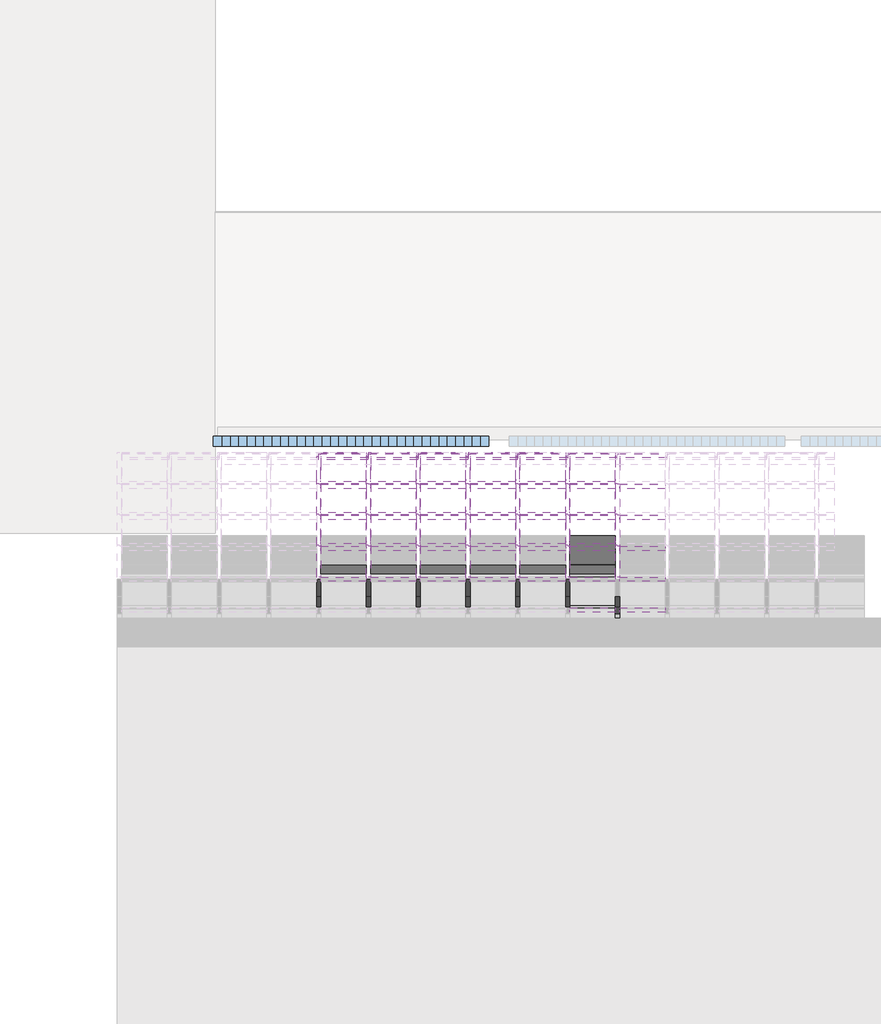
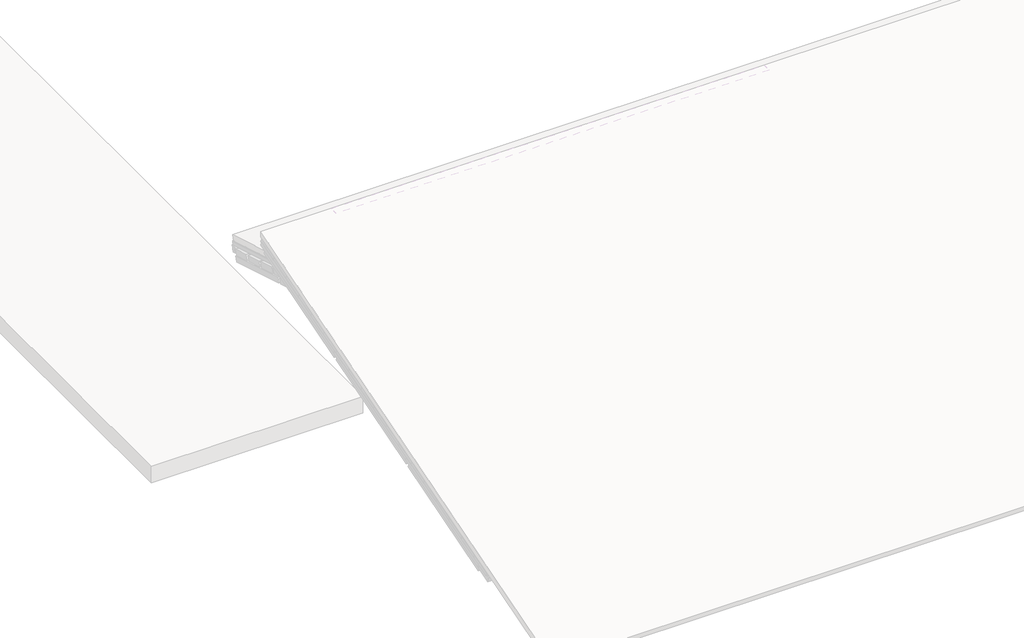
# One storey, part 14 of 57: 95 members, 25 plates, 1 window.
"""IFC4 building model written with IfcOpenShell, lengths in millimetres."""

from ifc_helpers import new_model, si_unit, origin, place, context, project, spatial, transform, mapped, element, save
from components import rectangular_mullion_4c4137b9, rectangular_mullion_59984080, rectangular_mullion_2d2423ea, rectangular_mullion_3ac3718c, rectangular_mullion_caibro_df98490b, rectangular_mullion_caibro_e4384bba, rectangular_mullion_caibro_0993a3cf, rectangular_mullion_caibro_9bd7bc61, rectangular_mullion_caibro_650698a1, empty_system_panel_vazio_178faf58, empty_system_panel_vazio_2c78850d, window_60306791, window_6c828501, window_02d14e1e

model = new_model("IFC4")

# Units and contexts
model_context = context("Model", 3, world=origin())
ifc_project = project(units=[si_unit("LENGTHUNIT", "METRE", prefix="MILLI")], contexts=[model_context])

# Site, building, storey
site = spatial("IfcSite", under=ifc_project)
building = spatial("IfcBuilding", under=site)
storey = spatial("IfcBuildingStorey", under=building, Name="Nível 2", Elevation=4100.0)

# Members
placement = place(None, origin())
rectangular_mullion_shape = rectangular_mullion_4c4137b9(model_context)
element("IfcMember", 1, ObjectType="Rectangular Mullion : Ripa", at=placement, inside=storey, context=model_context, shape_type="MappedRepresentation", body=[
    mapped(rectangular_mullion_shape, transform((4139.8996779, 15566.1284427, 5819.8877114), x_axis=(0.0, 0.9578262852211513, 0.2873478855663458), y_axis=(0.0, 0.2873478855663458, -0.9578262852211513), z_axis=(-1.0, 0.0, 0.0))),
])
element("IfcMember", 2, ObjectType="Rectangular Mullion : Ripa", at=placement, inside=storey, context=model_context, shape_type="MappedRepresentation", body=[
    mapped(rectangular_mullion_shape, transform((4736.9544343, 15566.1284427, 5819.8877114), x_axis=(0.0, 0.9578262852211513, 0.2873478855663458), y_axis=(0.0, 0.2873478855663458, -0.9578262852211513), z_axis=(-1.0, 0.0, 0.0))),
])
element("IfcMember", 3, ObjectType="Rectangular Mullion : Ripa", at=placement, inside=storey, context=model_context, shape_type="MappedRepresentation", body=[
    mapped(rectangular_mullion_shape, transform((5334.0091907, 15566.1284427, 5819.8877114), x_axis=(0.0, 0.9578262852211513, 0.2873478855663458), y_axis=(0.0, 0.2873478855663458, -0.9578262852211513), z_axis=(-1.0, 0.0, 0.0))),
])
element("IfcMember", 4, ObjectType="Rectangular Mullion : Ripa", at=placement, inside=storey, context=model_context, shape_type="MappedRepresentation", body=[
    mapped(rectangular_mullion_shape, transform((5931.0639471, 15566.1284427, 5819.8877114), x_axis=(0.0, 0.9578262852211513, 0.2873478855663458), y_axis=(0.0, 0.2873478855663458, -0.9578262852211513), z_axis=(-1.0, 0.0, 0.0))),
])
element("IfcMember", 5, ObjectType="Rectangular Mullion : Ripa", at=placement, inside=storey, context=model_context, shape_type="MappedRepresentation", body=[
    mapped(rectangular_mullion_shape, transform((6528.1187036, 15566.1284427, 5819.8877114), x_axis=(0.0, 0.9578262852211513, 0.2873478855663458), y_axis=(0.0, 0.2873478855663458, -0.9578262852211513), z_axis=(-1.0, 0.0, 0.0))),
])
element("IfcMember", 6, ObjectType="Rectangular Mullion : Ripa", at=placement, inside=storey, context=model_context, shape_type="MappedRepresentation", body=[
    mapped(rectangular_mullion_shape, transform((7125.17346, 15566.1284427, 5819.8877114), x_axis=(0.0, 0.9578262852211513, 0.2873478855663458), y_axis=(0.0, 0.2873478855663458, -0.9578262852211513), z_axis=(-1.0, 0.0, 0.0))),
])
element("IfcMember", 7, ObjectType="Rectangular Mullion : Ripa", at=placement, inside=storey, context=model_context, shape_type="MappedRepresentation", body=[
    mapped(rectangular_mullion_shape, transform((7722.2282164, 15566.1284427, 5819.8877114), x_axis=(0.0, 0.9578262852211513, 0.2873478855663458), y_axis=(0.0, 0.2873478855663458, -0.9578262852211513), z_axis=(-1.0, 0.0, 0.0))),
])
rectangular_mullion_2_shape = rectangular_mullion_59984080(model_context)
element("IfcMember", 8, ObjectType="Rectangular Mullion : Ripa", at=placement, inside=storey, context=model_context, shape_type="MappedRepresentation", body=[
    mapped(rectangular_mullion_2_shape, transform((7150.17346, 13345.0648907, 5153.5686458), x_axis=(0.0, 0.9578262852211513, 0.2873478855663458), y_axis=(0.0, 0.2873478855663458, -0.9578262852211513), z_axis=(-1.0, 0.0, 0.0))),
])
element("IfcMember", 9, ObjectType="Rectangular Mullion : Ripa", at=placement, inside=storey, context=model_context, shape_type="MappedRepresentation", body=[
    mapped(rectangular_mullion_2_shape, transform((7747.2282164, 13345.0648907, 5153.5686458), x_axis=(0.0, 0.9578262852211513, 0.2873478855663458), y_axis=(0.0, 0.2873478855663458, -0.9578262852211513), z_axis=(-1.0, 0.0, 0.0))),
])
element("IfcMember", 10, ObjectType="Rectangular Mullion : Ripa", at=placement, inside=storey, context=model_context, shape_type="MappedRepresentation", body=[
    mapped(rectangular_mullion_2_shape, transform((7150.17346, 13715.2421494, 5264.6218234), x_axis=(0.0, 0.9578262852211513, 0.2873478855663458), y_axis=(0.0, 0.2873478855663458, -0.9578262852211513), z_axis=(-1.0, 0.0, 0.0))),
])
element("IfcMember", 11, ObjectType="Rectangular Mullion : Ripa", at=placement, inside=storey, context=model_context, shape_type="MappedRepresentation", body=[
    mapped(rectangular_mullion_2_shape, transform((7747.2282164, 13715.2421494, 5264.6218234), x_axis=(0.0, 0.9578262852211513, 0.2873478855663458), y_axis=(0.0, 0.2873478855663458, -0.9578262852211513), z_axis=(-1.0, 0.0, 0.0))),
])
element("IfcMember", 12, ObjectType="Rectangular Mullion : Ripa", at=placement, inside=storey, context=model_context, shape_type="MappedRepresentation", body=[
    mapped(rectangular_mullion_2_shape, transform((4164.8996779, 14085.4194081, 5375.675001), x_axis=(0.0, 0.9578262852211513, 0.2873478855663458), y_axis=(0.0, 0.2873478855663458, -0.9578262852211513), z_axis=(-1.0, 0.0, 0.0))),
])
element("IfcMember", 13, ObjectType="Rectangular Mullion : Ripa", at=placement, inside=storey, context=model_context, shape_type="MappedRepresentation", body=[
    mapped(rectangular_mullion_2_shape, transform((4761.9544343, 14085.4194081, 5375.675001), x_axis=(0.0, 0.9578262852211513, 0.2873478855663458), y_axis=(0.0, 0.2873478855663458, -0.9578262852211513), z_axis=(-1.0, 0.0, 0.0))),
])
element("IfcMember", 14, ObjectType="Rectangular Mullion : Ripa", at=placement, inside=storey, context=model_context, shape_type="MappedRepresentation", body=[
    mapped(rectangular_mullion_2_shape, transform((5359.0091907, 14085.4194081, 5375.675001), x_axis=(0.0, 0.9578262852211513, 0.2873478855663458), y_axis=(0.0, 0.2873478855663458, -0.9578262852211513), z_axis=(-1.0, 0.0, 0.0))),
])
element("IfcMember", 15, ObjectType="Rectangular Mullion : Ripa", at=placement, inside=storey, context=model_context, shape_type="MappedRepresentation", body=[
    mapped(rectangular_mullion_2_shape, transform((5956.0639471, 14085.4194081, 5375.675001), x_axis=(0.0, 0.9578262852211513, 0.2873478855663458), y_axis=(0.0, 0.2873478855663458, -0.9578262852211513), z_axis=(-1.0, 0.0, 0.0))),
])
element("IfcMember", 16, ObjectType="Rectangular Mullion : Ripa", at=placement, inside=storey, context=model_context, shape_type="MappedRepresentation", body=[
    mapped(rectangular_mullion_2_shape, transform((6553.1187036, 14085.4194081, 5375.675001), x_axis=(0.0, 0.9578262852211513, 0.2873478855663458), y_axis=(0.0, 0.2873478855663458, -0.9578262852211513), z_axis=(-1.0, 0.0, 0.0))),
])
element("IfcMember", 17, ObjectType="Rectangular Mullion : Ripa", at=placement, inside=storey, context=model_context, shape_type="MappedRepresentation", body=[
    mapped(rectangular_mullion_2_shape, transform((7150.17346, 14085.4194081, 5375.675001), x_axis=(0.0, 0.9578262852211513, 0.2873478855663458), y_axis=(0.0, 0.2873478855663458, -0.9578262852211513), z_axis=(-1.0, 0.0, 0.0))),
])
element("IfcMember", 18, ObjectType="Rectangular Mullion : Ripa", at=placement, inside=storey, context=model_context, shape_type="MappedRepresentation", body=[
    mapped(rectangular_mullion_2_shape, transform((7747.2282164, 14085.4194081, 5375.675001), x_axis=(0.0, 0.9578262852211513, 0.2873478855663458), y_axis=(0.0, 0.2873478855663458, -0.9578262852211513), z_axis=(-1.0, 0.0, 0.0))),
])
element("IfcMember", 19, ObjectType="Rectangular Mullion : Ripa", at=placement, inside=storey, context=model_context, shape_type="MappedRepresentation", body=[
    mapped(rectangular_mullion_2_shape, transform((4164.8996779, 14455.5966667, 5486.7281786), x_axis=(0.0, 0.9578262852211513, 0.2873478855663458), y_axis=(0.0, 0.2873478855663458, -0.9578262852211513), z_axis=(-1.0, 0.0, 0.0))),
])
element("IfcMember", 20, ObjectType="Rectangular Mullion : Ripa", at=placement, inside=storey, context=model_context, shape_type="MappedRepresentation", body=[
    mapped(rectangular_mullion_2_shape, transform((4761.9544343, 14455.5966667, 5486.7281786), x_axis=(0.0, 0.9578262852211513, 0.2873478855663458), y_axis=(0.0, 0.2873478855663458, -0.9578262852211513), z_axis=(-1.0, 0.0, 0.0))),
])
element("IfcMember", 21, ObjectType="Rectangular Mullion : Ripa", at=placement, inside=storey, context=model_context, shape_type="MappedRepresentation", body=[
    mapped(rectangular_mullion_2_shape, transform((5359.0091907, 14455.5966667, 5486.7281786), x_axis=(0.0, 0.9578262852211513, 0.2873478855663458), y_axis=(0.0, 0.2873478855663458, -0.9578262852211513), z_axis=(-1.0, 0.0, 0.0))),
])
element("IfcMember", 22, ObjectType="Rectangular Mullion : Ripa", at=placement, inside=storey, context=model_context, shape_type="MappedRepresentation", body=[
    mapped(rectangular_mullion_2_shape, transform((5956.0639471, 14455.5966667, 5486.7281786), x_axis=(0.0, 0.9578262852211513, 0.2873478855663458), y_axis=(0.0, 0.2873478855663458, -0.9578262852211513), z_axis=(-1.0, 0.0, 0.0))),
])
element("IfcMember", 23, ObjectType="Rectangular Mullion : Ripa", at=placement, inside=storey, context=model_context, shape_type="MappedRepresentation", body=[
    mapped(rectangular_mullion_2_shape, transform((6553.1187036, 14455.5966667, 5486.7281786), x_axis=(0.0, 0.9578262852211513, 0.2873478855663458), y_axis=(0.0, 0.2873478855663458, -0.9578262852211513), z_axis=(-1.0, 0.0, 0.0))),
])
element("IfcMember", 24, ObjectType="Rectangular Mullion : Ripa", at=placement, inside=storey, context=model_context, shape_type="MappedRepresentation", body=[
    mapped(rectangular_mullion_2_shape, transform((7150.17346, 14455.5966667, 5486.7281786), x_axis=(0.0, 0.9578262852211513, 0.2873478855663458), y_axis=(0.0, 0.2873478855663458, -0.9578262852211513), z_axis=(-1.0, 0.0, 0.0))),
])
element("IfcMember", 25, ObjectType="Rectangular Mullion : Ripa", at=placement, inside=storey, context=model_context, shape_type="MappedRepresentation", body=[
    mapped(rectangular_mullion_2_shape, transform((7747.2282164, 14455.5966667, 5486.7281786), x_axis=(0.0, 0.9578262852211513, 0.2873478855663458), y_axis=(0.0, 0.2873478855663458, -0.9578262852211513), z_axis=(-1.0, 0.0, 0.0))),
])
element("IfcMember", 26, ObjectType="Rectangular Mullion : Ripa", at=placement, inside=storey, context=model_context, shape_type="MappedRepresentation", body=[
    mapped(rectangular_mullion_2_shape, transform((4164.8996779, 14825.7739254, 5597.7813562), x_axis=(0.0, 0.9578262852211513, 0.2873478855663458), y_axis=(0.0, 0.2873478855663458, -0.9578262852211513), z_axis=(-1.0, 0.0, 0.0))),
])
element("IfcMember", 27, ObjectType="Rectangular Mullion : Ripa", at=placement, inside=storey, context=model_context, shape_type="MappedRepresentation", body=[
    mapped(rectangular_mullion_2_shape, transform((4761.9544343, 14825.7739254, 5597.7813562), x_axis=(0.0, 0.9578262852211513, 0.2873478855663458), y_axis=(0.0, 0.2873478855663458, -0.9578262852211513), z_axis=(-1.0, 0.0, 0.0))),
])
element("IfcMember", 28, ObjectType="Rectangular Mullion : Ripa", at=placement, inside=storey, context=model_context, shape_type="MappedRepresentation", body=[
    mapped(rectangular_mullion_2_shape, transform((5359.0091907, 14825.7739254, 5597.7813562), x_axis=(0.0, 0.9578262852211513, 0.2873478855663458), y_axis=(0.0, 0.2873478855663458, -0.9578262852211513), z_axis=(-1.0, 0.0, 0.0))),
])
element("IfcMember", 29, ObjectType="Rectangular Mullion : Ripa", at=placement, inside=storey, context=model_context, shape_type="MappedRepresentation", body=[
    mapped(rectangular_mullion_2_shape, transform((5956.0639471, 14825.7739254, 5597.7813562), x_axis=(0.0, 0.9578262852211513, 0.2873478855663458), y_axis=(0.0, 0.2873478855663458, -0.9578262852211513), z_axis=(-1.0, 0.0, 0.0))),
])
element("IfcMember", 30, ObjectType="Rectangular Mullion : Ripa", at=placement, inside=storey, context=model_context, shape_type="MappedRepresentation", body=[
    mapped(rectangular_mullion_2_shape, transform((6553.1187036, 14825.7739254, 5597.7813562), x_axis=(0.0, 0.9578262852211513, 0.2873478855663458), y_axis=(0.0, 0.2873478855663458, -0.9578262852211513), z_axis=(-1.0, 0.0, 0.0))),
])
element("IfcMember", 31, ObjectType="Rectangular Mullion : Ripa", at=placement, inside=storey, context=model_context, shape_type="MappedRepresentation", body=[
    mapped(rectangular_mullion_2_shape, transform((7150.17346, 14825.7739254, 5597.7813562), x_axis=(0.0, 0.9578262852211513, 0.2873478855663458), y_axis=(0.0, 0.2873478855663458, -0.9578262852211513), z_axis=(-1.0, 0.0, 0.0))),
])
element("IfcMember", 32, ObjectType="Rectangular Mullion : Ripa", at=placement, inside=storey, context=model_context, shape_type="MappedRepresentation", body=[
    mapped(rectangular_mullion_2_shape, transform((7747.2282164, 14825.7739254, 5597.7813562), x_axis=(0.0, 0.9578262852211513, 0.2873478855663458), y_axis=(0.0, 0.2873478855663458, -0.9578262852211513), z_axis=(-1.0, 0.0, 0.0))),
])
element("IfcMember", 33, ObjectType="Rectangular Mullion : Ripa", at=placement, inside=storey, context=model_context, shape_type="MappedRepresentation", body=[
    mapped(rectangular_mullion_2_shape, transform((4164.8996779, 15195.9511841, 5708.8345338), x_axis=(0.0, 0.9578262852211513, 0.2873478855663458), y_axis=(0.0, 0.2873478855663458, -0.9578262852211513), z_axis=(-1.0, 0.0, 0.0))),
])
element("IfcMember", 34, ObjectType="Rectangular Mullion : Ripa", at=placement, inside=storey, context=model_context, shape_type="MappedRepresentation", body=[
    mapped(rectangular_mullion_2_shape, transform((4761.9544343, 15195.9511841, 5708.8345338), x_axis=(0.0, 0.9578262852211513, 0.2873478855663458), y_axis=(0.0, 0.2873478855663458, -0.9578262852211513), z_axis=(-1.0, 0.0, 0.0))),
])
element("IfcMember", 35, ObjectType="Rectangular Mullion : Ripa", at=placement, inside=storey, context=model_context, shape_type="MappedRepresentation", body=[
    mapped(rectangular_mullion_2_shape, transform((5359.0091907, 15195.9511841, 5708.8345338), x_axis=(0.0, 0.9578262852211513, 0.2873478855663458), y_axis=(0.0, 0.2873478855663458, -0.9578262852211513), z_axis=(-1.0, 0.0, 0.0))),
])
element("IfcMember", 36, ObjectType="Rectangular Mullion : Ripa", at=placement, inside=storey, context=model_context, shape_type="MappedRepresentation", body=[
    mapped(rectangular_mullion_2_shape, transform((5956.0639471, 15195.9511841, 5708.8345338), x_axis=(0.0, 0.9578262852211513, 0.2873478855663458), y_axis=(0.0, 0.2873478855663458, -0.9578262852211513), z_axis=(-1.0, 0.0, 0.0))),
])
element("IfcMember", 37, ObjectType="Rectangular Mullion : Ripa", at=placement, inside=storey, context=model_context, shape_type="MappedRepresentation", body=[
    mapped(rectangular_mullion_2_shape, transform((6553.1187036, 15195.9511841, 5708.8345338), x_axis=(0.0, 0.9578262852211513, 0.2873478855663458), y_axis=(0.0, 0.2873478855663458, -0.9578262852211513), z_axis=(-1.0, 0.0, 0.0))),
])
element("IfcMember", 38, ObjectType="Rectangular Mullion : Ripa", at=placement, inside=storey, context=model_context, shape_type="MappedRepresentation", body=[
    mapped(rectangular_mullion_2_shape, transform((7150.17346, 15195.9511841, 5708.8345338), x_axis=(0.0, 0.9578262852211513, 0.2873478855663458), y_axis=(0.0, 0.2873478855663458, -0.9578262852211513), z_axis=(-1.0, 0.0, 0.0))),
])
element("IfcMember", 39, ObjectType="Rectangular Mullion : Ripa", at=placement, inside=storey, context=model_context, shape_type="MappedRepresentation", body=[
    mapped(rectangular_mullion_2_shape, transform((7747.2282164, 15195.9511841, 5708.8345338), x_axis=(0.0, 0.9578262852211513, 0.2873478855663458), y_axis=(0.0, 0.2873478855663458, -0.9578262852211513), z_axis=(-1.0, 0.0, 0.0))),
])
rectangular_mullion_3_shape = rectangular_mullion_2d2423ea(model_context)
element("IfcMember", 40, ObjectType="Rectangular Mullion : Terça", at=placement, inside=storey, context=model_context, shape_type="MappedRepresentation", body=[
    mapped(rectangular_mullion_3_shape, transform((7150.17346, 13411.2689826, 5110.7880343), x_axis=(0.0, 0.9578262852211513, 0.2873478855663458), y_axis=(0.0, 0.2873478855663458, -0.9578262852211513), z_axis=(-1.0, 0.0, 0.0))),
])
element("IfcMember", 41, ObjectType="Rectangular Mullion : Terça", at=placement, inside=storey, context=model_context, shape_type="MappedRepresentation", body=[
    mapped(rectangular_mullion_3_shape, transform((7747.2282164, 13411.2689826, 5110.7880343), x_axis=(0.0, 0.9578262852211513, 0.2873478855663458), y_axis=(0.0, 0.2873478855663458, -0.9578262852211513), z_axis=(-1.0, 0.0, 0.0))),
])
rectangular_mullion_4_shape = rectangular_mullion_3ac3718c(model_context)
element("IfcMember", 42, ObjectType="Rectangular Mullion : Terça", at=placement, inside=storey, context=model_context, shape_type="MappedRepresentation", body=[
    mapped(rectangular_mullion_4_shape, transform((4139.8996779, 15566.1284427, 5757.2458723), x_axis=(0.0, 0.9578262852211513, 0.2873478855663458), y_axis=(0.0, 0.2873478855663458, -0.9578262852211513), z_axis=(-1.0, 0.0, 0.0))),
])
element("IfcMember", 43, ObjectType="Rectangular Mullion : Terça", at=placement, inside=storey, context=model_context, shape_type="MappedRepresentation", body=[
    mapped(rectangular_mullion_4_shape, transform((4736.9544343, 15566.1284427, 5757.2458723), x_axis=(0.0, 0.9578262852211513, 0.2873478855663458), y_axis=(0.0, 0.2873478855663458, -0.9578262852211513), z_axis=(-1.0, 0.0, 0.0))),
])
element("IfcMember", 44, ObjectType="Rectangular Mullion : Terça", at=placement, inside=storey, context=model_context, shape_type="MappedRepresentation", body=[
    mapped(rectangular_mullion_4_shape, transform((5334.0091907, 15566.1284427, 5757.2458723), x_axis=(0.0, 0.9578262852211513, 0.2873478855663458), y_axis=(0.0, 0.2873478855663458, -0.9578262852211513), z_axis=(-1.0, 0.0, 0.0))),
])
element("IfcMember", 45, ObjectType="Rectangular Mullion : Terça", at=placement, inside=storey, context=model_context, shape_type="MappedRepresentation", body=[
    mapped(rectangular_mullion_4_shape, transform((5931.0639471, 15566.1284427, 5757.2458723), x_axis=(0.0, 0.9578262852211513, 0.2873478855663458), y_axis=(0.0, 0.2873478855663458, -0.9578262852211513), z_axis=(-1.0, 0.0, 0.0))),
])
element("IfcMember", 46, ObjectType="Rectangular Mullion : Terça", at=placement, inside=storey, context=model_context, shape_type="MappedRepresentation", body=[
    mapped(rectangular_mullion_4_shape, transform((6528.1187036, 15566.1284427, 5757.2458723), x_axis=(0.0, 0.9578262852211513, 0.2873478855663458), y_axis=(0.0, 0.2873478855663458, -0.9578262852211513), z_axis=(-1.0, 0.0, 0.0))),
])
rectangular_mullion_caibro_shape = rectangular_mullion_caibro_df98490b(model_context)
element("IfcMember", 47, ObjectType="Rectangular Mullion : Caibro", at=placement, inside=storey, context=model_context, shape_type="MappedRepresentation", body=[
    mapped(rectangular_mullion_caibro_shape, transform((4139.8996779, 15518.2371285, 5805.5203171), x_axis=(1.0, 0.0, 0.0), y_axis=(0.0, 0.28734788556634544, -0.9578262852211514), z_axis=(0.0, 0.9578262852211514, 0.28734788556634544))),
])
element("IfcMember", 48, ObjectType="Rectangular Mullion : Caibro", at=placement, inside=storey, context=model_context, shape_type="MappedRepresentation", body=[
    mapped(rectangular_mullion_caibro_shape, transform((4736.9544343, 15518.2371285, 5805.5203171), x_axis=(1.0, 0.0, 0.0), y_axis=(0.0, 0.28734788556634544, -0.9578262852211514), z_axis=(0.0, 0.9578262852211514, 0.28734788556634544))),
])
element("IfcMember", 49, ObjectType="Rectangular Mullion : Caibro", at=placement, inside=storey, context=model_context, shape_type="MappedRepresentation", body=[
    mapped(rectangular_mullion_caibro_shape, transform((5334.0091907, 15518.2371285, 5805.5203171), x_axis=(1.0, 0.0, 0.0), y_axis=(0.0, 0.28734788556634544, -0.9578262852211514), z_axis=(0.0, 0.9578262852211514, 0.28734788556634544))),
])
element("IfcMember", 50, ObjectType="Rectangular Mullion : Caibro", at=placement, inside=storey, context=model_context, shape_type="MappedRepresentation", body=[
    mapped(rectangular_mullion_caibro_shape, transform((5931.0639471, 15518.2371285, 5805.5203171), x_axis=(1.0, 0.0, 0.0), y_axis=(0.0, 0.28734788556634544, -0.9578262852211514), z_axis=(0.0, 0.9578262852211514, 0.28734788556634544))),
])
element("IfcMember", 51, ObjectType="Rectangular Mullion : Caibro", at=placement, inside=storey, context=model_context, shape_type="MappedRepresentation", body=[
    mapped(rectangular_mullion_caibro_shape, transform((6528.1187036, 15518.2371285, 5805.5203171), x_axis=(1.0, 0.0, 0.0), y_axis=(0.0, 0.28734788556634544, -0.9578262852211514), z_axis=(0.0, 0.9578262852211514, 0.28734788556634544))),
])
element("IfcMember", 52, ObjectType="Rectangular Mullion : Caibro", at=placement, inside=storey, context=model_context, shape_type="MappedRepresentation", body=[
    mapped(rectangular_mullion_caibro_shape, transform((7125.17346, 15518.2371285, 5805.5203171), x_axis=(1.0, 0.0, 0.0), y_axis=(0.0, 0.28734788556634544, -0.9578262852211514), z_axis=(0.0, 0.9578262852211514, 0.28734788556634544))),
])
element("IfcMember", 53, ObjectType="Rectangular Mullion : Caibro", at=placement, inside=storey, context=model_context, shape_type="MappedRepresentation", body=[
    mapped(rectangular_mullion_caibro_shape, transform((7722.2282164, 15518.2371285, 5805.5203171), x_axis=(1.0, 0.0, 0.0), y_axis=(0.0, 0.28734788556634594, -0.9578262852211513), z_axis=(0.0, 0.9578262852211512, 0.2873478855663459))),
])
rectangular_mullion_caibro_2_shape = rectangular_mullion_caibro_e4384bba(model_context)
element("IfcMember", 54, ObjectType="Rectangular Mullion : Caibro", at=placement, inside=storey, context=model_context, shape_type="MappedRepresentation", body=[
    mapped(rectangular_mullion_caibro_2_shape, transform((4139.8996779, 14085.4194081, 5375.675001), x_axis=(1.0, 0.0, 0.0), y_axis=(0.0, 0.28734788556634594, -0.9578262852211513), z_axis=(0.0, 0.9578262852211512, 0.2873478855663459))),
])
element("IfcMember", 55, ObjectType="Rectangular Mullion : Caibro", at=placement, inside=storey, context=model_context, shape_type="MappedRepresentation", body=[
    mapped(rectangular_mullion_caibro_2_shape, transform((4139.8996779, 14455.5966667, 5486.7281786), x_axis=(1.0, 0.0, 0.0), y_axis=(0.0, 0.2873478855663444, -0.9578262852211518), z_axis=(0.0, 0.9578262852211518, 0.2873478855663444))),
])
element("IfcMember", 56, ObjectType="Rectangular Mullion : Caibro", at=placement, inside=storey, context=model_context, shape_type="MappedRepresentation", body=[
    mapped(rectangular_mullion_caibro_2_shape, transform((4139.8996779, 14825.7739254, 5597.7813562), x_axis=(1.0, 0.0, 0.0), y_axis=(0.0, 0.287347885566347, -0.9578262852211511), z_axis=(0.0, 0.9578262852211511, 0.287347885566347))),
])
element("IfcMember", 57, ObjectType="Rectangular Mullion : Caibro", at=placement, inside=storey, context=model_context, shape_type="MappedRepresentation", body=[
    mapped(rectangular_mullion_caibro_2_shape, transform((4139.8996779, 15195.9511841, 5708.8345338), x_axis=(1.0, 0.0, 0.0), y_axis=(0.0, 0.28734788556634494, -0.9578262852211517), z_axis=(0.0, 0.9578262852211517, 0.28734788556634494))),
])
element("IfcMember", 58, ObjectType="Rectangular Mullion : Caibro", at=placement, inside=storey, context=model_context, shape_type="MappedRepresentation", body=[
    mapped(rectangular_mullion_caibro_2_shape, transform((4736.9544343, 14085.4194081, 5375.675001), x_axis=(1.0, 0.0, 0.0), y_axis=(0.0, 0.28734788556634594, -0.9578262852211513), z_axis=(0.0, 0.9578262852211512, 0.2873478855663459))),
])
element("IfcMember", 59, ObjectType="Rectangular Mullion : Caibro", at=placement, inside=storey, context=model_context, shape_type="MappedRepresentation", body=[
    mapped(rectangular_mullion_caibro_2_shape, transform((4736.9544343, 14455.5966667, 5486.7281786), x_axis=(1.0, 0.0, 0.0), y_axis=(0.0, 0.2873478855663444, -0.9578262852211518), z_axis=(0.0, 0.9578262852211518, 0.2873478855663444))),
])
element("IfcMember", 60, ObjectType="Rectangular Mullion : Caibro", at=placement, inside=storey, context=model_context, shape_type="MappedRepresentation", body=[
    mapped(rectangular_mullion_caibro_2_shape, transform((4736.9544343, 14825.7739254, 5597.7813562), x_axis=(1.0, 0.0, 0.0), y_axis=(0.0, 0.287347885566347, -0.9578262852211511), z_axis=(0.0, 0.9578262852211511, 0.287347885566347))),
])
element("IfcMember", 61, ObjectType="Rectangular Mullion : Caibro", at=placement, inside=storey, context=model_context, shape_type="MappedRepresentation", body=[
    mapped(rectangular_mullion_caibro_2_shape, transform((4736.9544343, 15195.9511841, 5708.8345338), x_axis=(1.0, 0.0, 0.0), y_axis=(0.0, 0.28734788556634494, -0.9578262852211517), z_axis=(0.0, 0.9578262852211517, 0.28734788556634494))),
])
element("IfcMember", 62, ObjectType="Rectangular Mullion : Caibro", at=placement, inside=storey, context=model_context, shape_type="MappedRepresentation", body=[
    mapped(rectangular_mullion_caibro_2_shape, transform((5334.0091907, 14085.4194081, 5375.675001), x_axis=(1.0, 0.0, 0.0), y_axis=(0.0, 0.28734788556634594, -0.9578262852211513), z_axis=(0.0, 0.9578262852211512, 0.2873478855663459))),
])
element("IfcMember", 63, ObjectType="Rectangular Mullion : Caibro", at=placement, inside=storey, context=model_context, shape_type="MappedRepresentation", body=[
    mapped(rectangular_mullion_caibro_2_shape, transform((5334.0091907, 14455.5966667, 5486.7281786), x_axis=(1.0, 0.0, 0.0), y_axis=(0.0, 0.2873478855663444, -0.9578262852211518), z_axis=(0.0, 0.9578262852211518, 0.2873478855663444))),
])
element("IfcMember", 64, ObjectType="Rectangular Mullion : Caibro", at=placement, inside=storey, context=model_context, shape_type="MappedRepresentation", body=[
    mapped(rectangular_mullion_caibro_2_shape, transform((5334.0091907, 14825.7739254, 5597.7813562), x_axis=(1.0, 0.0, 0.0), y_axis=(0.0, 0.287347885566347, -0.9578262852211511), z_axis=(0.0, 0.9578262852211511, 0.287347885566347))),
])
element("IfcMember", 65, ObjectType="Rectangular Mullion : Caibro", at=placement, inside=storey, context=model_context, shape_type="MappedRepresentation", body=[
    mapped(rectangular_mullion_caibro_2_shape, transform((5334.0091907, 15195.9511841, 5708.8345338), x_axis=(1.0, 0.0, 0.0), y_axis=(0.0, 0.28734788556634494, -0.9578262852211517), z_axis=(0.0, 0.9578262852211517, 0.28734788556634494))),
])
element("IfcMember", 66, ObjectType="Rectangular Mullion : Caibro", at=placement, inside=storey, context=model_context, shape_type="MappedRepresentation", body=[
    mapped(rectangular_mullion_caibro_2_shape, transform((5931.0639471, 14085.4194081, 5375.675001), x_axis=(1.0, 0.0, 0.0), y_axis=(0.0, 0.28734788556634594, -0.9578262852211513), z_axis=(0.0, 0.9578262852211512, 0.2873478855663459))),
])
element("IfcMember", 67, ObjectType="Rectangular Mullion : Caibro", at=placement, inside=storey, context=model_context, shape_type="MappedRepresentation", body=[
    mapped(rectangular_mullion_caibro_2_shape, transform((5931.0639471, 14455.5966667, 5486.7281786), x_axis=(1.0, 0.0, 0.0), y_axis=(0.0, 0.2873478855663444, -0.9578262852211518), z_axis=(0.0, 0.9578262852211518, 0.2873478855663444))),
])
element("IfcMember", 68, ObjectType="Rectangular Mullion : Caibro", at=placement, inside=storey, context=model_context, shape_type="MappedRepresentation", body=[
    mapped(rectangular_mullion_caibro_2_shape, transform((5931.0639471, 14825.7739254, 5597.7813562), x_axis=(1.0, 0.0, 0.0), y_axis=(0.0, 0.287347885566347, -0.9578262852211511), z_axis=(0.0, 0.9578262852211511, 0.287347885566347))),
])
element("IfcMember", 69, ObjectType="Rectangular Mullion : Caibro", at=placement, inside=storey, context=model_context, shape_type="MappedRepresentation", body=[
    mapped(rectangular_mullion_caibro_2_shape, transform((5931.0639471, 15195.9511841, 5708.8345338), x_axis=(1.0, 0.0, 0.0), y_axis=(0.0, 0.28734788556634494, -0.9578262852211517), z_axis=(0.0, 0.9578262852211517, 0.28734788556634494))),
])
element("IfcMember", 70, ObjectType="Rectangular Mullion : Caibro", at=placement, inside=storey, context=model_context, shape_type="MappedRepresentation", body=[
    mapped(rectangular_mullion_caibro_2_shape, transform((6528.1187036, 14085.4194081, 5375.675001), x_axis=(1.0, 0.0, 0.0), y_axis=(0.0, 0.28734788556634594, -0.9578262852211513), z_axis=(0.0, 0.9578262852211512, 0.2873478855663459))),
])
element("IfcMember", 71, ObjectType="Rectangular Mullion : Caibro", at=placement, inside=storey, context=model_context, shape_type="MappedRepresentation", body=[
    mapped(rectangular_mullion_caibro_2_shape, transform((6528.1187036, 14455.5966667, 5486.7281786), x_axis=(1.0, 0.0, 0.0), y_axis=(0.0, 0.2873478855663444, -0.9578262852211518), z_axis=(0.0, 0.9578262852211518, 0.2873478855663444))),
])
element("IfcMember", 72, ObjectType="Rectangular Mullion : Caibro", at=placement, inside=storey, context=model_context, shape_type="MappedRepresentation", body=[
    mapped(rectangular_mullion_caibro_2_shape, transform((6528.1187036, 14825.7739254, 5597.7813562), x_axis=(1.0, 0.0, 0.0), y_axis=(0.0, 0.287347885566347, -0.9578262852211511), z_axis=(0.0, 0.9578262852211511, 0.287347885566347))),
])
element("IfcMember", 73, ObjectType="Rectangular Mullion : Caibro", at=placement, inside=storey, context=model_context, shape_type="MappedRepresentation", body=[
    mapped(rectangular_mullion_caibro_2_shape, transform((6528.1187036, 15195.9511841, 5708.8345338), x_axis=(1.0, 0.0, 0.0), y_axis=(0.0, 0.28734788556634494, -0.9578262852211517), z_axis=(0.0, 0.9578262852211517, 0.28734788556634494))),
])
element("IfcMember", 74, ObjectType="Rectangular Mullion : Caibro", at=placement, inside=storey, context=model_context, shape_type="MappedRepresentation", body=[
    mapped(rectangular_mullion_caibro_2_shape, transform((7125.17346, 14085.4194081, 5375.675001), x_axis=(1.0, 0.0, 0.0), y_axis=(0.0, 0.28734788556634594, -0.9578262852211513), z_axis=(0.0, 0.9578262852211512, 0.2873478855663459))),
])
element("IfcMember", 75, ObjectType="Rectangular Mullion : Caibro", at=placement, inside=storey, context=model_context, shape_type="MappedRepresentation", body=[
    mapped(rectangular_mullion_caibro_2_shape, transform((7125.17346, 14455.5966667, 5486.7281786), x_axis=(1.0, 0.0, 0.0), y_axis=(0.0, 0.2873478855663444, -0.9578262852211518), z_axis=(0.0, 0.9578262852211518, 0.2873478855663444))),
])
element("IfcMember", 76, ObjectType="Rectangular Mullion : Caibro", at=placement, inside=storey, context=model_context, shape_type="MappedRepresentation", body=[
    mapped(rectangular_mullion_caibro_2_shape, transform((7125.17346, 14825.7739254, 5597.7813562), x_axis=(1.0, 0.0, 0.0), y_axis=(0.0, 0.287347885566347, -0.9578262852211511), z_axis=(0.0, 0.9578262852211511, 0.287347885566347))),
])
element("IfcMember", 77, ObjectType="Rectangular Mullion : Caibro", at=placement, inside=storey, context=model_context, shape_type="MappedRepresentation", body=[
    mapped(rectangular_mullion_caibro_2_shape, transform((7125.17346, 15195.9511841, 5708.8345338), x_axis=(1.0, 0.0, 0.0), y_axis=(0.0, 0.28734788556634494, -0.9578262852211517), z_axis=(0.0, 0.9578262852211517, 0.28734788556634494))),
])
element("IfcMember", 78, ObjectType="Rectangular Mullion : Caibro", at=placement, inside=storey, context=model_context, shape_type="MappedRepresentation", body=[
    mapped(rectangular_mullion_caibro_2_shape, transform((7722.2282164, 13715.2421494, 5264.6218234), x_axis=(1.0, 0.0, 0.0), y_axis=(0.0, 0.28734788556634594, -0.9578262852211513), z_axis=(0.0, 0.9578262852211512, 0.2873478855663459))),
])
element("IfcMember", 79, ObjectType="Rectangular Mullion : Caibro", at=placement, inside=storey, context=model_context, shape_type="MappedRepresentation", body=[
    mapped(rectangular_mullion_caibro_2_shape, transform((7722.2282164, 14085.4194081, 5375.675001), x_axis=(1.0, 0.0, 0.0), y_axis=(0.0, 0.28734788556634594, -0.9578262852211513), z_axis=(0.0, 0.9578262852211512, 0.2873478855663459))),
])
element("IfcMember", 80, ObjectType="Rectangular Mullion : Caibro", at=placement, inside=storey, context=model_context, shape_type="MappedRepresentation", body=[
    mapped(rectangular_mullion_caibro_2_shape, transform((7722.2282164, 14455.5966667, 5486.7281786), x_axis=(1.0, 0.0, 0.0), y_axis=(0.0, 0.28734788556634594, -0.9578262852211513), z_axis=(0.0, 0.9578262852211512, 0.2873478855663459))),
])
element("IfcMember", 81, ObjectType="Rectangular Mullion : Caibro", at=placement, inside=storey, context=model_context, shape_type="MappedRepresentation", body=[
    mapped(rectangular_mullion_caibro_2_shape, transform((7722.2282164, 14825.7739254, 5597.7813562), x_axis=(1.0, 0.0, 0.0), y_axis=(0.0, 0.28734788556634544, -0.9578262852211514), z_axis=(0.0, 0.9578262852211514, 0.28734788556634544))),
])
element("IfcMember", 82, ObjectType="Rectangular Mullion : Caibro", at=placement, inside=storey, context=model_context, shape_type="MappedRepresentation", body=[
    mapped(rectangular_mullion_caibro_2_shape, transform((7722.2282164, 15195.9511841, 5708.8345338), x_axis=(1.0, 0.0, 0.0), y_axis=(0.0, 0.28734788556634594, -0.9578262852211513), z_axis=(0.0, 0.9578262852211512, 0.2873478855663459))),
])
rectangular_mullion_caibro_3_shape = rectangular_mullion_caibro_0993a3cf(model_context)
element("IfcMember", 83, ObjectType="Rectangular Mullion : Caibro", at=placement, inside=storey, context=model_context, shape_type="MappedRepresentation", body=[
    mapped(rectangular_mullion_caibro_3_shape, transform((4139.8996779, 15508.6588656, 5740.0049992), x_axis=(1.0, 0.0, 0.0), y_axis=(0.0, 0.28734788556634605, -0.9578262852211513), z_axis=(0.0, 0.9578262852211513, 0.28734788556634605))),
])
element("IfcMember", 84, ObjectType="Rectangular Mullion : Caibro", at=placement, inside=storey, context=model_context, shape_type="MappedRepresentation", body=[
    mapped(rectangular_mullion_caibro_3_shape, transform((4736.9544343, 15508.6588656, 5740.0049992), x_axis=(1.0, 0.0, 0.0), y_axis=(0.0, 0.28734788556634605, -0.9578262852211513), z_axis=(0.0, 0.9578262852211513, 0.28734788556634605))),
])
element("IfcMember", 85, ObjectType="Rectangular Mullion : Caibro", at=placement, inside=storey, context=model_context, shape_type="MappedRepresentation", body=[
    mapped(rectangular_mullion_caibro_3_shape, transform((5334.0091907, 15508.6588656, 5740.0049992), x_axis=(1.0, 0.0, 0.0), y_axis=(0.0, 0.28734788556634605, -0.9578262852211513), z_axis=(0.0, 0.9578262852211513, 0.28734788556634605))),
])
element("IfcMember", 86, ObjectType="Rectangular Mullion : Caibro", at=placement, inside=storey, context=model_context, shape_type="MappedRepresentation", body=[
    mapped(rectangular_mullion_caibro_3_shape, transform((5931.0639471, 15508.6588656, 5740.0049992), x_axis=(1.0, 0.0, 0.0), y_axis=(0.0, 0.28734788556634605, -0.9578262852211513), z_axis=(0.0, 0.9578262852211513, 0.28734788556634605))),
])
element("IfcMember", 87, ObjectType="Rectangular Mullion : Caibro", at=placement, inside=storey, context=model_context, shape_type="MappedRepresentation", body=[
    mapped(rectangular_mullion_caibro_3_shape, transform((6528.1187036, 15508.6588656, 5740.0049992), x_axis=(1.0, 0.0, 0.0), y_axis=(0.0, 0.28734788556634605, -0.9578262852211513), z_axis=(0.0, 0.9578262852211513, 0.28734788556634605))),
])
element("IfcMember", 88, ObjectType="Rectangular Mullion : Caibro", at=placement, inside=storey, context=model_context, shape_type="MappedRepresentation", body=[
    mapped(rectangular_mullion_caibro_3_shape, transform((7125.17346, 15508.6588656, 5740.0049992), x_axis=(1.0, 0.0, 0.0), y_axis=(0.0, 0.28734788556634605, -0.9578262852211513), z_axis=(0.0, 0.9578262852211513, 0.28734788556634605))),
])
rectangular_mullion_caibro_4_shape = rectangular_mullion_caibro_9bd7bc61(model_context)
element("IfcMember", 89, ObjectType="Rectangular Mullion : Caibro", at=placement, inside=storey, context=model_context, shape_type="MappedRepresentation", body=[
    mapped(rectangular_mullion_caibro_4_shape, transform((7125.17346, 13411.2689826, 5110.7880343), x_axis=(1.0, 0.0, 0.0), y_axis=(0.0, 0.2873478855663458, -0.9578262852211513), z_axis=(0.0, 0.9578262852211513, 0.2873478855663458))),
])
element("IfcMember", 90, ObjectType="Rectangular Mullion : Caibro", at=placement, inside=storey, context=model_context, shape_type="MappedRepresentation", body=[
    mapped(rectangular_mullion_caibro_4_shape, transform((7722.2282164, 13411.2689826, 5110.7880343), x_axis=(1.0, 0.0, 0.0), y_axis=(0.0, 0.2873478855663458, -0.9578262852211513), z_axis=(0.0, 0.9578262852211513, 0.2873478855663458))),
])
rectangular_mullion_caibro_5_shape = rectangular_mullion_caibro_650698a1(model_context)
element("IfcMember", 91, ObjectType="Rectangular Mullion : Caibro", at=placement, inside=storey, context=model_context, shape_type="MappedRepresentation", body=[
    mapped(rectangular_mullion_caibro_5_shape, transform((6510.6195628, 15772.0058221, 4410.7541277), x_axis=(-1.0, 0.0, 0.0), y_axis=(0.0, -0.2873478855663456, -0.9578262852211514), z_axis=(0.0, -0.9578262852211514, 0.2873478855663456))),
])
element("IfcMember", 92, ObjectType="Rectangular Mullion : Caibro", at=placement, inside=storey, context=model_context, shape_type="MappedRepresentation", body=[
    mapped(rectangular_mullion_caibro_5_shape, transform((5913.2710611, 15772.0058221, 4410.7541277), x_axis=(-1.0, 0.0, 0.0), y_axis=(0.0, -0.28734788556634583, -0.9578262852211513), z_axis=(0.0, -0.9578262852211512, 0.2873478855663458))),
])
element("IfcMember", 93, ObjectType="Rectangular Mullion : Caibro", at=placement, inside=storey, context=model_context, shape_type="MappedRepresentation", body=[
    mapped(rectangular_mullion_caibro_5_shape, transform((5315.9225594, 15772.0058221, 4410.7541277), x_axis=(-1.0, 0.0, 0.0), y_axis=(0.0, -0.28734788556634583, -0.9578262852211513), z_axis=(0.0, -0.9578262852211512, 0.2873478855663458))),
])
element("IfcMember", 94, ObjectType="Rectangular Mullion : Caibro", at=placement, inside=storey, context=model_context, shape_type="MappedRepresentation", body=[
    mapped(rectangular_mullion_caibro_5_shape, transform((4718.5740578, 15772.0058221, 4410.7541277), x_axis=(-1.0, 0.0, 0.0), y_axis=(0.0, -0.28734788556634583, -0.9578262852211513), z_axis=(0.0, -0.9578262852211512, 0.2873478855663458))),
])
element("IfcMember", 95, ObjectType="Rectangular Mullion : Caibro", at=placement, inside=storey, context=model_context, shape_type="MappedRepresentation", body=[
    mapped(rectangular_mullion_caibro_5_shape, transform((4121.2255561, 15772.0058221, 4410.7541277), x_axis=(-1.0, 0.0, 0.0), y_axis=(0.0, -0.28734788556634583, -0.9578262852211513), z_axis=(0.0, -0.9578262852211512, 0.2873478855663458))),
])

# Plates
empty_system_panel_vazio_shape = empty_system_panel_vazio_178faf58(model_context)
element("IfcPlate", 96, ObjectType="Empty System Panel : Vazio", at=placement, inside=storey, context=model_context, shape_type="MappedRepresentation", body=[
    mapped(empty_system_panel_vazio_shape, transform((4438.4270561, 14085.4194081, 5375.675001), x_axis=(1.0, 0.0, 0.0), y_axis=(0.0, 0.2873478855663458, -0.9578262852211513), z_axis=(0.0, 0.9578262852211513, 0.2873478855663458))),
])
element("IfcPlate", 97, ObjectType="Empty System Panel : Vazio", at=placement, inside=storey, context=model_context, shape_type="MappedRepresentation", body=[
    mapped(empty_system_panel_vazio_shape, transform((5035.4818125, 14085.4194081, 5375.675001), x_axis=(1.0, 0.0, 0.0), y_axis=(0.0, 0.2873478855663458, -0.9578262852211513), z_axis=(0.0, 0.9578262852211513, 0.2873478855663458))),
])
element("IfcPlate", 98, ObjectType="Empty System Panel : Vazio", at=placement, inside=storey, context=model_context, shape_type="MappedRepresentation", body=[
    mapped(empty_system_panel_vazio_shape, transform((5632.5365689, 14085.4194081, 5375.675001), x_axis=(1.0, 0.0, 0.0), y_axis=(0.0, 0.2873478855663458, -0.9578262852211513), z_axis=(0.0, 0.9578262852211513, 0.2873478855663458))),
])
element("IfcPlate", 99, ObjectType="Empty System Panel : Vazio", at=placement, inside=storey, context=model_context, shape_type="MappedRepresentation", body=[
    mapped(empty_system_panel_vazio_shape, transform((6229.5913253, 14085.4194081, 5375.675001), x_axis=(1.0, 0.0, 0.0), y_axis=(0.0, 0.2873478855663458, -0.9578262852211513), z_axis=(0.0, 0.9578262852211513, 0.2873478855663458))),
])
element("IfcPlate", 100, ObjectType="Empty System Panel : Vazio", at=placement, inside=storey, context=model_context, shape_type="MappedRepresentation", body=[
    mapped(empty_system_panel_vazio_shape, transform((6826.6460818, 14085.4194081, 5375.675001), x_axis=(1.0, 0.0, 0.0), y_axis=(0.0, 0.2873478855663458, -0.9578262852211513), z_axis=(0.0, 0.9578262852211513, 0.2873478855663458))),
])
element("IfcPlate", 101, ObjectType="Empty System Panel : Vazio", at=placement, inside=storey, context=model_context, shape_type="MappedRepresentation", body=[
    mapped(empty_system_panel_vazio_shape, transform((7423.7008382, 14085.4194081, 5375.675001), x_axis=(1.0, 0.0, 0.0), y_axis=(0.0, 0.2873478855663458, -0.9578262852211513), z_axis=(0.0, 0.9578262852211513, 0.2873478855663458))),
])
element("IfcPlate", 102, ObjectType="Empty System Panel : Vazio", at=placement, inside=storey, context=model_context, shape_type="MappedRepresentation", body=[
    mapped(empty_system_panel_vazio_shape, transform((4438.4270561, 14455.5966667, 5486.7281786), x_axis=(1.0, 0.0, 0.0), y_axis=(0.0, 0.2873478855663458, -0.9578262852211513), z_axis=(0.0, 0.9578262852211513, 0.2873478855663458))),
])
element("IfcPlate", 103, ObjectType="Empty System Panel : Vazio", at=placement, inside=storey, context=model_context, shape_type="MappedRepresentation", body=[
    mapped(empty_system_panel_vazio_shape, transform((5035.4818125, 14455.5966667, 5486.7281786), x_axis=(1.0, 0.0, 0.0), y_axis=(0.0, 0.2873478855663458, -0.9578262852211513), z_axis=(0.0, 0.9578262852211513, 0.2873478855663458))),
])
element("IfcPlate", 104, ObjectType="Empty System Panel : Vazio", at=placement, inside=storey, context=model_context, shape_type="MappedRepresentation", body=[
    mapped(empty_system_panel_vazio_shape, transform((5632.5365689, 14455.5966667, 5486.7281786), x_axis=(1.0, 0.0, 0.0), y_axis=(0.0, 0.2873478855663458, -0.9578262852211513), z_axis=(0.0, 0.9578262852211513, 0.2873478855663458))),
])
element("IfcPlate", 105, ObjectType="Empty System Panel : Vazio", at=placement, inside=storey, context=model_context, shape_type="MappedRepresentation", body=[
    mapped(empty_system_panel_vazio_shape, transform((6229.5913253, 14455.5966667, 5486.7281786), x_axis=(1.0, 0.0, 0.0), y_axis=(0.0, 0.2873478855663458, -0.9578262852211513), z_axis=(0.0, 0.9578262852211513, 0.2873478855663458))),
])
element("IfcPlate", 106, ObjectType="Empty System Panel : Vazio", at=placement, inside=storey, context=model_context, shape_type="MappedRepresentation", body=[
    mapped(empty_system_panel_vazio_shape, transform((6826.6460818, 14455.5966667, 5486.7281786), x_axis=(1.0, 0.0, 0.0), y_axis=(0.0, 0.2873478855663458, -0.9578262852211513), z_axis=(0.0, 0.9578262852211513, 0.2873478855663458))),
])
element("IfcPlate", 107, ObjectType="Empty System Panel : Vazio", at=placement, inside=storey, context=model_context, shape_type="MappedRepresentation", body=[
    mapped(empty_system_panel_vazio_shape, transform((7423.7008382, 14455.5966667, 5486.7281786), x_axis=(1.0, 0.0, 0.0), y_axis=(0.0, 0.2873478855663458, -0.9578262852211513), z_axis=(0.0, 0.9578262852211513, 0.2873478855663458))),
])
element("IfcPlate", 108, ObjectType="Empty System Panel : Vazio", at=placement, inside=storey, context=model_context, shape_type="MappedRepresentation", body=[
    mapped(empty_system_panel_vazio_shape, transform((4438.4270561, 14825.7739254, 5597.7813562), x_axis=(1.0, 0.0, 0.0), y_axis=(0.0, 0.2873478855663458, -0.9578262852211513), z_axis=(0.0, 0.9578262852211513, 0.2873478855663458))),
])
element("IfcPlate", 109, ObjectType="Empty System Panel : Vazio", at=placement, inside=storey, context=model_context, shape_type="MappedRepresentation", body=[
    mapped(empty_system_panel_vazio_shape, transform((5035.4818125, 14825.7739254, 5597.7813562), x_axis=(1.0, 0.0, 0.0), y_axis=(0.0, 0.2873478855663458, -0.9578262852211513), z_axis=(0.0, 0.9578262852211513, 0.2873478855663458))),
])
element("IfcPlate", 110, ObjectType="Empty System Panel : Vazio", at=placement, inside=storey, context=model_context, shape_type="MappedRepresentation", body=[
    mapped(empty_system_panel_vazio_shape, transform((5632.5365689, 14825.7739254, 5597.7813562), x_axis=(1.0, 0.0, 0.0), y_axis=(0.0, 0.2873478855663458, -0.9578262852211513), z_axis=(0.0, 0.9578262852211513, 0.2873478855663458))),
])
element("IfcPlate", 111, ObjectType="Empty System Panel : Vazio", at=placement, inside=storey, context=model_context, shape_type="MappedRepresentation", body=[
    mapped(empty_system_panel_vazio_shape, transform((6229.5913253, 14825.7739254, 5597.7813562), x_axis=(1.0, 0.0, 0.0), y_axis=(0.0, 0.2873478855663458, -0.9578262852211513), z_axis=(0.0, 0.9578262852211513, 0.2873478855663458))),
])
element("IfcPlate", 112, ObjectType="Empty System Panel : Vazio", at=placement, inside=storey, context=model_context, shape_type="MappedRepresentation", body=[
    mapped(empty_system_panel_vazio_shape, transform((6826.6460818, 14825.7739254, 5597.7813562), x_axis=(1.0, 0.0, 0.0), y_axis=(0.0, 0.2873478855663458, -0.9578262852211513), z_axis=(0.0, 0.9578262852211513, 0.2873478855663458))),
])
element("IfcPlate", 113, ObjectType="Empty System Panel : Vazio", at=placement, inside=storey, context=model_context, shape_type="MappedRepresentation", body=[
    mapped(empty_system_panel_vazio_shape, transform((7423.7008382, 14825.7739254, 5597.7813562), x_axis=(1.0, 0.0, 0.0), y_axis=(0.0, 0.2873478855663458, -0.9578262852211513), z_axis=(0.0, 0.9578262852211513, 0.2873478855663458))),
])
element("IfcPlate", 114, ObjectType="Empty System Panel : Vazio", at=placement, inside=storey, context=model_context, shape_type="MappedRepresentation", body=[
    mapped(empty_system_panel_vazio_shape, transform((4438.4270561, 15195.9511841, 5708.8345338), x_axis=(1.0, 0.0, 0.0), y_axis=(0.0, 0.2873478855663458, -0.9578262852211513), z_axis=(0.0, 0.9578262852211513, 0.2873478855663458))),
])
element("IfcPlate", 115, ObjectType="Empty System Panel : Vazio", at=placement, inside=storey, context=model_context, shape_type="MappedRepresentation", body=[
    mapped(empty_system_panel_vazio_shape, transform((5035.4818125, 15195.9511841, 5708.8345338), x_axis=(1.0, 0.0, 0.0), y_axis=(0.0, 0.2873478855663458, -0.9578262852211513), z_axis=(0.0, 0.9578262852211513, 0.2873478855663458))),
])
element("IfcPlate", 116, ObjectType="Empty System Panel : Vazio", at=placement, inside=storey, context=model_context, shape_type="MappedRepresentation", body=[
    mapped(empty_system_panel_vazio_shape, transform((5632.5365689, 15195.9511841, 5708.8345338), x_axis=(1.0, 0.0, 0.0), y_axis=(0.0, 0.2873478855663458, -0.9578262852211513), z_axis=(0.0, 0.9578262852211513, 0.2873478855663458))),
])
element("IfcPlate", 117, ObjectType="Empty System Panel : Vazio", at=placement, inside=storey, context=model_context, shape_type="MappedRepresentation", body=[
    mapped(empty_system_panel_vazio_shape, transform((6229.5913253, 15195.9511841, 5708.8345338), x_axis=(1.0, 0.0, 0.0), y_axis=(0.0, 0.2873478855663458, -0.9578262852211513), z_axis=(0.0, 0.9578262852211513, 0.2873478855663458))),
])
element("IfcPlate", 118, ObjectType="Empty System Panel : Vazio", at=placement, inside=storey, context=model_context, shape_type="MappedRepresentation", body=[
    mapped(empty_system_panel_vazio_shape, transform((6826.6460818, 15195.9511841, 5708.8345338), x_axis=(1.0, 0.0, 0.0), y_axis=(0.0, 0.2873478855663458, -0.9578262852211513), z_axis=(0.0, 0.9578262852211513, 0.2873478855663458))),
])
element("IfcPlate", 119, ObjectType="Empty System Panel : Vazio", at=placement, inside=storey, context=model_context, shape_type="MappedRepresentation", body=[
    mapped(empty_system_panel_vazio_shape, transform((7423.7008382, 15195.9511841, 5708.8345338), x_axis=(1.0, 0.0, 0.0), y_axis=(0.0, 0.2873478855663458, -0.9578262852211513), z_axis=(0.0, 0.9578262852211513, 0.2873478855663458))),
])
empty_system_panel_vazio_2_shape = empty_system_panel_vazio_2c78850d(model_context)
element("IfcPlate", 120, ObjectType="Empty System Panel : Vazio", at=placement, inside=storey, context=model_context, shape_type="MappedRepresentation", body=[
    mapped(empty_system_panel_vazio_2_shape, transform((7423.7008382, 13440.0037711, 5119.4084708), x_axis=(1.0, 0.0, 0.0), y_axis=(0.0, 0.2873478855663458, -0.9578262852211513), z_axis=(0.0, 0.9578262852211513, 0.2873478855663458))),
])

# Window
window_shape = window_60306791(model_context)
window_2_shape = window_6c828501(model_context)
window_3_shape = window_02d14e1e(model_context)
element("IfcWindow", 121, ObjectType="Concrete_Cobog_Hollow_block_14694 : Cobogó 3,25 x 0,80 m", at=placement, inside=storey, context=model_context, shape_type="MappedRepresentation", body=[
    mapped(window_shape, transform((4526.5285525, 15697.0058221, 3500.0), x_axis=(-1.0, 0.0, 0.0), y_axis=(0.0, -1.0, 0.0), z_axis=(0.0, 0.0, 1.0))),
    mapped(window_2_shape, transform((4526.5285525, 15697.0058221, 3500.0), x_axis=(-1.0, 0.0, 0.0), y_axis=(0.0, -1.0, 0.0), z_axis=(0.0, 0.0, 1.0))),
    mapped(window_3_shape, transform((4526.5285525, 15697.0058221, 3500.0), x_axis=(-1.0, 0.0, 0.0), y_axis=(0.0, -1.0, 0.0), z_axis=(0.0, 0.0, 1.0))),
])

save(model, "model.ifc")
